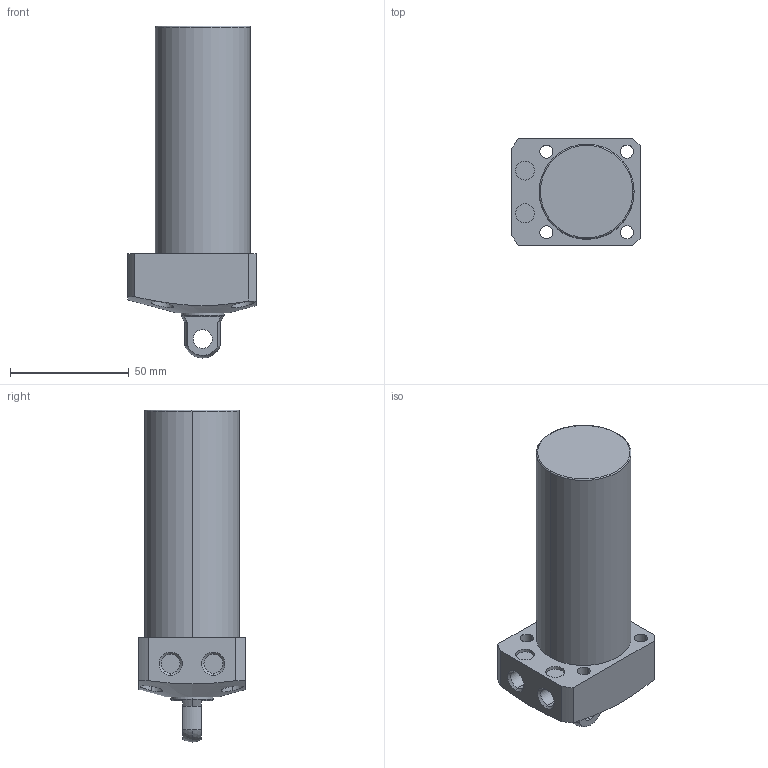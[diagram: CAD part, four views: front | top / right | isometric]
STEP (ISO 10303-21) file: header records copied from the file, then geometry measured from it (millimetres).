
FILE_DESCRIPTION (( 'STEP AP203' ), '1' );
FILE_NAME ('CLL040-CP-070.STEP', '2017-05-17T07:59:32', ( '' ), ( '' ), 'SwSTEP 2.0', 'SolidWorks 2015', '' );
FILE_SCHEMA (( 'CONFIG_CONTROL_DESIGN' ));
Length unit declared in the file: millimetre
Products named in the file (1): CLL040-CP-070
Bounding box: 54 x 45 x 140 mm (x, y, z)
Volume: 171892.5 mm3; surface area: 24077 mm2
Topology: 1 solids, 1 shells, 68 faces, 159 edges, 103 vertices
Faces by surface type: cylinder 35, plane 21, cone 8, sphere 2, torus 2
Entity records: 2372 total; most frequent: CARTESIAN_POINT 675, DIRECTION 357, ORIENTED_EDGE 318, EDGE_CURVE 159, AXIS2_PLACEMENT_3D 149, VERTEX_POINT 103, EDGE_LOOP 88, CIRCLE 80
